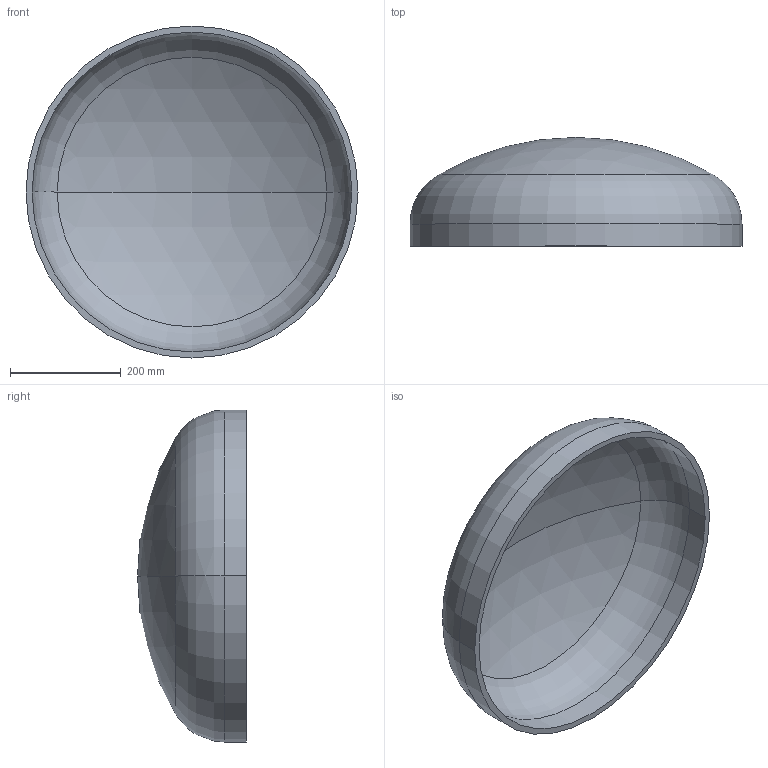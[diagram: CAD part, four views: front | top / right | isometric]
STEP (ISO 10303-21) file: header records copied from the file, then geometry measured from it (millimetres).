
FILE_DESCRIPTION (( 'STEP AP203' ), '1' );
FILE_NAME ('DIN 28013 Korbbogenform_-_Boden DIN 28013 - 600 x 40 - I - s=11.step', '2016-07-01T07:57:19', ( '' ), ( '' ), 'SwSTEP 2.0', 'SolidWorks 2013', '' );
FILE_SCHEMA (( 'CONFIG_CONTROL_DESIGN' ));
Length unit declared in the file: millimetre
Products named in the file (1): DIN 28013 Korbbogenform_-_Boden DIN 28013 - 600 x 40 - I - s=11
Bounding box: 600 x 196.73 x 600 mm (x, y, z)
Volume: 5015281.4 mm3; surface area: 932476.9 mm2
Topology: 1 solids, 1 shells, 13 faces, 24 edges, 14 vertices
Faces by surface type: torus 4, cylinder 4, sphere 4, plane 1
Entity records: 407 total; most frequent: DIRECTION 72, CARTESIAN_POINT 52, ORIENTED_EDGE 48, AXIS2_PLACEMENT_3D 34, EDGE_CURVE 24, CIRCLE 20, VERTEX_POINT 14, EDGE_LOOP 14
